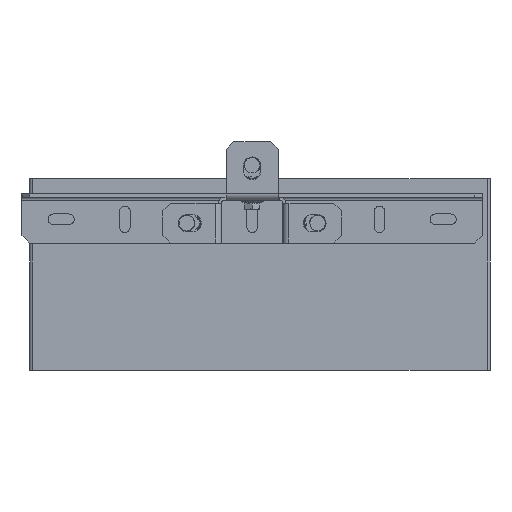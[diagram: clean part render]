
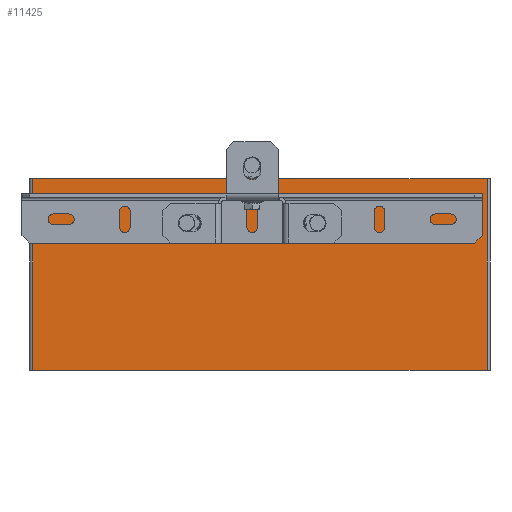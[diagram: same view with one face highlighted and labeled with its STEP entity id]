
A CAD part, front view. The second image highlights one B-rep face of the part: STEP entity #11425.
In plain terms, the highlighted planar face has unit normal (0, -1, 0).
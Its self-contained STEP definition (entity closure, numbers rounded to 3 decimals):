
#247 = VERTEX_POINT ( 'NONE', #6695 ) ;
#376 = LINE ( 'NONE', #2350, #6972 ) ;
#425 = VERTEX_POINT ( 'NONE', #4794 ) ;
#443 = EDGE_CURVE ( 'NONE', #247, #425, #376, .T. ) ;
#1523 = CARTESIAN_POINT ( 'NONE',  ( 298.1, 0., 0. ) ) ;
#1817 = DIRECTION ( 'NONE',  ( 0., 0., 1. ) ) ;
#1993 = ORIENTED_EDGE ( 'NONE', *, *, #14037, .T. ) ;
#2350 = CARTESIAN_POINT ( 'NONE',  ( 0., 0., -125. ) ) ;
#2584 = EDGE_CURVE ( 'NONE', #247, #8828, #13931, .T. ) ;
#2692 = VERTEX_POINT ( 'NONE', #1523 ) ;
#2922 = CARTESIAN_POINT ( 'NONE',  ( 1.9, 0., 0. ) ) ;
#3118 = DIRECTION ( 'NONE',  ( 0., 0., -1. ) ) ;
#4021 = VECTOR ( 'NONE', #6179, 1000. ) ;
#4794 = CARTESIAN_POINT ( 'NONE',  ( 298.1, 0., -125. ) ) ;
#4945 = CARTESIAN_POINT ( 'NONE',  ( 1.9, 0., -125. ) ) ;
#5268 = VECTOR ( 'NONE', #1817, 1000. ) ;
#5519 = CARTESIAN_POINT ( 'NONE',  ( 0., 0., -125. ) ) ;
#5608 = CARTESIAN_POINT ( 'NONE',  ( 298.1, 0., -125. ) ) ;
#6179 = DIRECTION ( 'NONE',  ( 0., 0., 1. ) ) ;
#6380 = ORIENTED_EDGE ( 'NONE', *, *, #2584, .F. ) ;
#6695 = CARTESIAN_POINT ( 'NONE',  ( 1.9, 0., -125. ) ) ;
#6972 = VECTOR ( 'NONE', #11003, 1000. ) ;
#7633 = VECTOR ( 'NONE', #10693, 1000. ) ;
#8561 = EDGE_LOOP ( 'NONE', ( #9356, #6380, #10294, #1993 ) ) ;
#8574 = LINE ( 'NONE', #5608, #5268 ) ;
#8828 = VERTEX_POINT ( 'NONE', #2922 ) ;
#9192 = FACE_OUTER_BOUND ( 'NONE', #8561, .T. ) ;
#9356 = ORIENTED_EDGE ( 'NONE', *, *, #12294, .F. ) ;
#9456 = CARTESIAN_POINT ( 'NONE',  ( 0., 0., 0. ) ) ;
#10294 = ORIENTED_EDGE ( 'NONE', *, *, #443, .T. ) ;
#10331 = AXIS2_PLACEMENT_3D ( 'NONE', #5519, #10552, #3118 ) ;
#10552 = DIRECTION ( 'NONE',  ( 0., -1., 0. ) ) ;
#10693 = DIRECTION ( 'NONE',  ( 1., 0., 0. ) ) ;
#10910 = LINE ( 'NONE', #9456, #7633 ) ;
#11003 = DIRECTION ( 'NONE',  ( 1., 0., 0. ) ) ;
#11425 = ADVANCED_FACE ( 'NONE', ( #9192 ), #14244, .T. ) ;
#12294 = EDGE_CURVE ( 'NONE', #8828, #2692, #10910, .T. ) ;
#13931 = LINE ( 'NONE', #4945, #4021 ) ;
#14037 = EDGE_CURVE ( 'NONE', #425, #2692, #8574, .T. ) ;
#14244 = PLANE ( 'NONE',  #10331 ) ;
